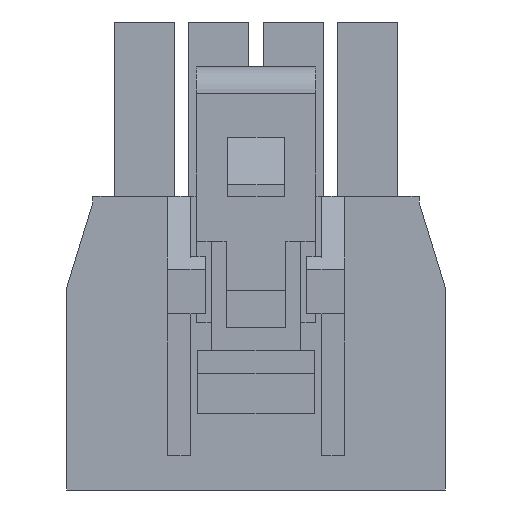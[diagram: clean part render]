
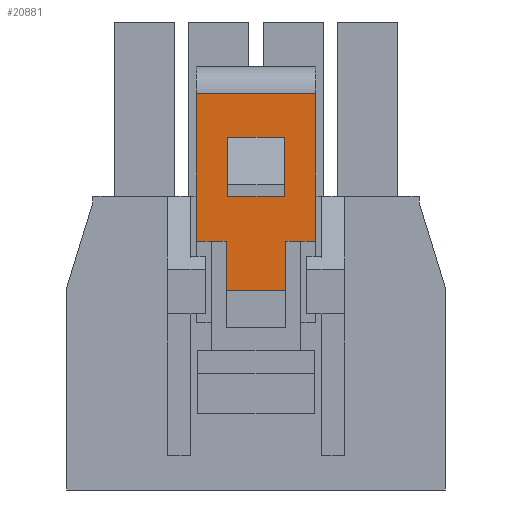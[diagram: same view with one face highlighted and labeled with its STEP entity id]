
A CAD part, front view. The second image highlights one B-rep face of the part: STEP entity #20881.
In plain terms, the highlighted planar face has unit normal (0, -1, 0).
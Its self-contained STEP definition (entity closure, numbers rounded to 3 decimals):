
#144 = ORIENTED_EDGE ( 'NONE', *, *, #19803, .F. ) ;
#207 = LINE ( 'NONE', #5187, #20047 ) ;
#304 = VECTOR ( 'NONE', #5875, 1000. ) ;
#327 = EDGE_CURVE ( 'NONE', #18146, #5363, #1006, .T. ) ;
#401 = CARTESIAN_POINT ( 'NONE',  ( -0.393, 6.98, -7.125 ) ) ;
#1006 = LINE ( 'NONE', #21034, #304 ) ;
#1071 = CARTESIAN_POINT ( 'NONE',  ( 1.557, 6.98, -5.615 ) ) ;
#1091 = CARTESIAN_POINT ( 'NONE',  ( 1.607, 6.98, -8.775 ) ) ;
#1222 = LINE ( 'NONE', #16494, #8353 ) ;
#1228 = ORIENTED_EDGE ( 'NONE', *, *, #19827, .F. ) ;
#1242 = DIRECTION ( 'NONE',  ( 0., 0., -1. ) ) ;
#1303 = LINE ( 'NONE', #14692, #8013 ) ;
#1448 = DIRECTION ( 'NONE',  ( 0., 0., 1. ) ) ;
#1473 = ORIENTED_EDGE ( 'NONE', *, *, #2860, .F. ) ;
#1599 = EDGE_CURVE ( 'NONE', #20495, #17987, #1303, .T. ) ;
#2279 = DIRECTION ( 'NONE',  ( -1., 0., 0. ) ) ;
#2630 = CARTESIAN_POINT ( 'NONE',  ( -0.343, 6.98, -5.615 ) ) ;
#2822 = CARTESIAN_POINT ( 'NONE',  ( 1.557, 6.98, -3.625 ) ) ;
#2860 = EDGE_CURVE ( 'NONE', #19882, #18996, #207, .T. ) ;
#3301 = EDGE_CURVE ( 'NONE', #18996, #13564, #10693, .T. ) ;
#3947 = CARTESIAN_POINT ( 'NONE',  ( -1.393, 6.98, -7.125 ) ) ;
#4263 = CARTESIAN_POINT ( 'NONE',  ( 2.607, 6.98, -2.165 ) ) ;
#4363 = FACE_OUTER_BOUND ( 'NONE', #16593, .T. ) ;
#4531 = EDGE_CURVE ( 'NONE', #20495, #6977, #20516, .T. ) ;
#4725 = CARTESIAN_POINT ( 'NONE',  ( -0.393, 6.98, -8.775 ) ) ;
#4883 = DIRECTION ( 'NONE',  ( -1., 0., 0. ) ) ;
#4923 = CARTESIAN_POINT ( 'NONE',  ( 2.607, 6.98, -2.165 ) ) ;
#5187 = CARTESIAN_POINT ( 'NONE',  ( 1.607, 6.98, -7.125 ) ) ;
#5197 = CARTESIAN_POINT ( 'NONE',  ( -1.393, 6.98, -2.165 ) ) ;
#5363 = VERTEX_POINT ( 'NONE', #5197 ) ;
#5501 = EDGE_CURVE ( 'NONE', #8225, #15827, #14159, .T. ) ;
#5846 = ORIENTED_EDGE ( 'NONE', *, *, #3301, .F. ) ;
#5875 = DIRECTION ( 'NONE',  ( -1., 0., 0. ) ) ;
#5907 = CARTESIAN_POINT ( 'NONE',  ( -1.393, 6.98, -2.165 ) ) ;
#6612 = CARTESIAN_POINT ( 'NONE',  ( 2.607, 6.98, -2.165 ) ) ;
#6977 = VERTEX_POINT ( 'NONE', #2630 ) ;
#7683 = LINE ( 'NONE', #14444, #21904 ) ;
#7758 = LINE ( 'NONE', #16609, #16836 ) ;
#8013 = VECTOR ( 'NONE', #19354, 1000. ) ;
#8225 = VERTEX_POINT ( 'NONE', #3947 ) ;
#8353 = VECTOR ( 'NONE', #4883, 1000. ) ;
#8357 = VECTOR ( 'NONE', #20568, 1000. ) ;
#8489 = ORIENTED_EDGE ( 'NONE', *, *, #327, .T. ) ;
#8765 = AXIS2_PLACEMENT_3D ( 'NONE', #4263, #11114, #9989 ) ;
#8841 = EDGE_CURVE ( 'NONE', #5363, #8225, #14535, .T. ) ;
#9697 = VECTOR ( 'NONE', #11883, 1000. ) ;
#9989 = DIRECTION ( 'NONE',  ( 1., 0., 0. ) ) ;
#10259 = CARTESIAN_POINT ( 'NONE',  ( 2.607, 6.98, -7.125 ) ) ;
#10504 = DIRECTION ( 'NONE',  ( 0., 0., -1. ) ) ;
#10693 = LINE ( 'NONE', #17440, #12626 ) ;
#10746 = VERTEX_POINT ( 'NONE', #17021 ) ;
#10769 = VECTOR ( 'NONE', #1242, 1000. ) ;
#10909 = FACE_BOUND ( 'NONE', #19989, .T. ) ;
#10965 = ORIENTED_EDGE ( 'NONE', *, *, #4531, .T. ) ;
#11013 = PLANE ( 'NONE',  #8765 ) ;
#11114 = DIRECTION ( 'NONE',  ( 0., 1., 0. ) ) ;
#11883 = DIRECTION ( 'NONE',  ( -1., 0., 0. ) ) ;
#12626 = VECTOR ( 'NONE', #2279, 1000. ) ;
#12895 = EDGE_CURVE ( 'NONE', #17773, #19882, #7683, .T. ) ;
#13284 = ORIENTED_EDGE ( 'NONE', *, *, #19188, .F. ) ;
#13359 = VECTOR ( 'NONE', #18446, 1000. ) ;
#13564 = VERTEX_POINT ( 'NONE', #4725 ) ;
#13829 = CARTESIAN_POINT ( 'NONE',  ( -0.893, 6.98, -7.125 ) ) ;
#13939 = DIRECTION ( 'NONE',  ( 0., 0., 1. ) ) ;
#14159 = LINE ( 'NONE', #13829, #8357 ) ;
#14267 = LINE ( 'NONE', #20573, #21123 ) ;
#14444 = CARTESIAN_POINT ( 'NONE',  ( 2.107, 6.98, -7.125 ) ) ;
#14535 = LINE ( 'NONE', #5907, #10769 ) ;
#14692 = CARTESIAN_POINT ( 'NONE',  ( 1.557, 6.98, -5.615 ) ) ;
#15229 = ORIENTED_EDGE ( 'NONE', *, *, #18798, .T. ) ;
#15426 = CARTESIAN_POINT ( 'NONE',  ( 1.557, 6.98, -5.615 ) ) ;
#15827 = VERTEX_POINT ( 'NONE', #401 ) ;
#15932 = ORIENTED_EDGE ( 'NONE', *, *, #1599, .F. ) ;
#16494 = CARTESIAN_POINT ( 'NONE',  ( 1.557, 6.98, -3.625 ) ) ;
#16593 = EDGE_LOOP ( 'NONE', ( #18685, #13284, #8489, #17854, #19282, #1228, #5846, #1473 ) ) ;
#16609 = CARTESIAN_POINT ( 'NONE',  ( -0.393, 6.98, -7.125 ) ) ;
#16836 = VECTOR ( 'NONE', #1448, 1000. ) ;
#16968 = DIRECTION ( 'NONE',  ( -1., 0., 0. ) ) ;
#17021 = CARTESIAN_POINT ( 'NONE',  ( -0.343, 6.98, -3.625 ) ) ;
#17440 = CARTESIAN_POINT ( 'NONE',  ( 2.607, 6.98, -8.775 ) ) ;
#17773 = VERTEX_POINT ( 'NONE', #10259 ) ;
#17854 = ORIENTED_EDGE ( 'NONE', *, *, #8841, .T. ) ;
#17987 = VERTEX_POINT ( 'NONE', #2822 ) ;
#18146 = VERTEX_POINT ( 'NONE', #4923 ) ;
#18147 = CARTESIAN_POINT ( 'NONE',  ( 1.607, 6.98, -7.125 ) ) ;
#18446 = DIRECTION ( 'NONE',  ( 0., 0., -1. ) ) ;
#18685 = ORIENTED_EDGE ( 'NONE', *, *, #12895, .F. ) ;
#18798 = EDGE_CURVE ( 'NONE', #6977, #10746, #14267, .T. ) ;
#18996 = VERTEX_POINT ( 'NONE', #1091 ) ;
#19188 = EDGE_CURVE ( 'NONE', #18146, #17773, #21763, .T. ) ;
#19282 = ORIENTED_EDGE ( 'NONE', *, *, #5501, .T. ) ;
#19354 = DIRECTION ( 'NONE',  ( 0., 0., 1. ) ) ;
#19803 = EDGE_CURVE ( 'NONE', #17987, #10746, #1222, .T. ) ;
#19827 = EDGE_CURVE ( 'NONE', #13564, #15827, #7758, .T. ) ;
#19882 = VERTEX_POINT ( 'NONE', #18147 ) ;
#19989 = EDGE_LOOP ( 'NONE', ( #144, #15932, #10965, #15229 ) ) ;
#20047 = VECTOR ( 'NONE', #10504, 1000. ) ;
#20495 = VERTEX_POINT ( 'NONE', #1071 ) ;
#20516 = LINE ( 'NONE', #15426, #9697 ) ;
#20568 = DIRECTION ( 'NONE',  ( 1., 0., 0. ) ) ;
#20573 = CARTESIAN_POINT ( 'NONE',  ( -0.343, 6.98, -5.615 ) ) ;
#20881 = ADVANCED_FACE ( 'NONE', ( #10909, #4363 ), #11013, .F. ) ;
#21034 = CARTESIAN_POINT ( 'NONE',  ( 2.607, 6.98, -2.165 ) ) ;
#21123 = VECTOR ( 'NONE', #13939, 1000. ) ;
#21763 = LINE ( 'NONE', #6612, #13359 ) ;
#21904 = VECTOR ( 'NONE', #16968, 1000. ) ;
